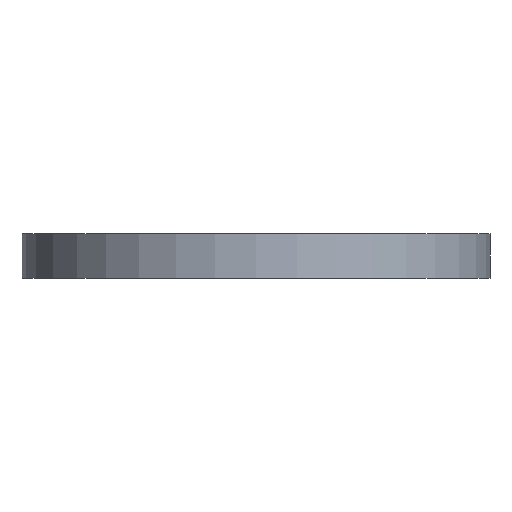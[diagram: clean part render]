
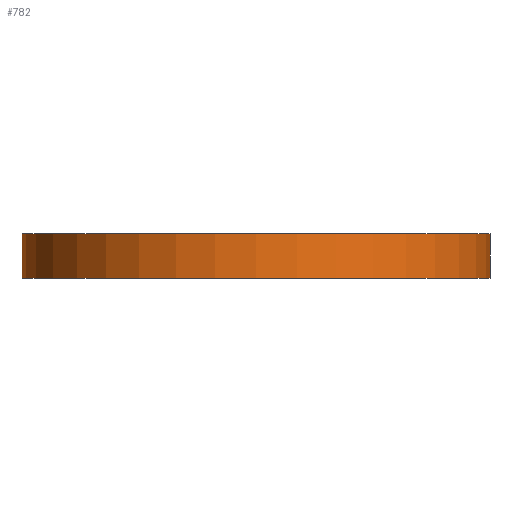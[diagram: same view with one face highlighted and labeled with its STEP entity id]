
A CAD part, front view. The second image highlights one B-rep face of the part: STEP entity #782.
In plain terms, the highlighted cylindrical face has radius 187.5 mm (diameter 375 mm), a partial arc.
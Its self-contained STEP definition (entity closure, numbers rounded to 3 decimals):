
#34 = DIRECTION ( 'NONE',  ( 0., 0., 1. ) ) ;
#39 = CARTESIAN_POINT ( 'NONE',  ( 187.5, 0., -98. ) ) ;
#90 = FACE_OUTER_BOUND ( 'NONE', #943, .T. ) ;
#116 = DIRECTION ( 'NONE',  ( 0., 0., -1. ) ) ;
#129 = EDGE_CURVE ( 'NONE', #173, #1075, #319, .T. ) ;
#167 = EDGE_CURVE ( 'NONE', #1075, #189, #487, .T. ) ;
#173 = VERTEX_POINT ( 'NONE', #727 ) ;
#174 = CARTESIAN_POINT ( 'NONE',  ( 0., 0., 0. ) ) ;
#189 = VERTEX_POINT ( 'NONE', #492 ) ;
#196 = EDGE_CURVE ( 'NONE', #173, #732, #813, .T. ) ;
#240 = VECTOR ( 'NONE', #407, 1000. ) ;
#295 = CIRCLE ( 'NONE', #296, 187.5 ) ;
#296 = AXIS2_PLACEMENT_3D ( 'NONE', #174, #538, #859 ) ;
#319 = CIRCLE ( 'NONE', #891, 187.5 ) ;
#370 = DIRECTION ( 'NONE',  ( 1., 0., 0. ) ) ;
#380 = AXIS2_PLACEMENT_3D ( 'NONE', #774, #1102, #370 ) ;
#383 = ORIENTED_EDGE ( 'NONE', *, *, #167, .F. ) ;
#407 = DIRECTION ( 'NONE',  ( 0., 0., 1. ) ) ;
#449 = VECTOR ( 'NONE', #34, 1000. ) ;
#457 = CYLINDRICAL_SURFACE ( 'NONE', #380, 187.5 ) ;
#481 = DIRECTION ( 'NONE',  ( -1., 0., 0. ) ) ;
#487 = LINE ( 'NONE', #807, #449 ) ;
#492 = CARTESIAN_POINT ( 'NONE',  ( -187.5, 0., 0. ) ) ;
#538 = DIRECTION ( 'NONE',  ( 0., 0., 1. ) ) ;
#577 = ORIENTED_EDGE ( 'NONE', *, *, #129, .F. ) ;
#598 = CARTESIAN_POINT ( 'NONE',  ( -187.5, 0., -36. ) ) ;
#727 = CARTESIAN_POINT ( 'NONE',  ( 187.5, 0., -36. ) ) ;
#732 = VERTEX_POINT ( 'NONE', #1028 ) ;
#770 = EDGE_CURVE ( 'NONE', #189, #732, #295, .T. ) ;
#774 = CARTESIAN_POINT ( 'NONE',  ( 0., 0., -98. ) ) ;
#782 = ADVANCED_FACE ( 'NONE', ( #90 ), #457, .T. ) ;
#807 = CARTESIAN_POINT ( 'NONE',  ( -187.5, 0., -98. ) ) ;
#813 = LINE ( 'NONE', #39, #240 ) ;
#854 = ORIENTED_EDGE ( 'NONE', *, *, #770, .F. ) ;
#859 = DIRECTION ( 'NONE',  ( 1., 0., 0. ) ) ;
#880 = CARTESIAN_POINT ( 'NONE',  ( 0., 0., -36. ) ) ;
#891 = AXIS2_PLACEMENT_3D ( 'NONE', #880, #116, #481 ) ;
#939 = ORIENTED_EDGE ( 'NONE', *, *, #196, .T. ) ;
#943 = EDGE_LOOP ( 'NONE', ( #383, #577, #939, #854 ) ) ;
#1028 = CARTESIAN_POINT ( 'NONE',  ( 187.5, 0., 0. ) ) ;
#1075 = VERTEX_POINT ( 'NONE', #598 ) ;
#1102 = DIRECTION ( 'NONE',  ( 0., 0., 1. ) ) ;
